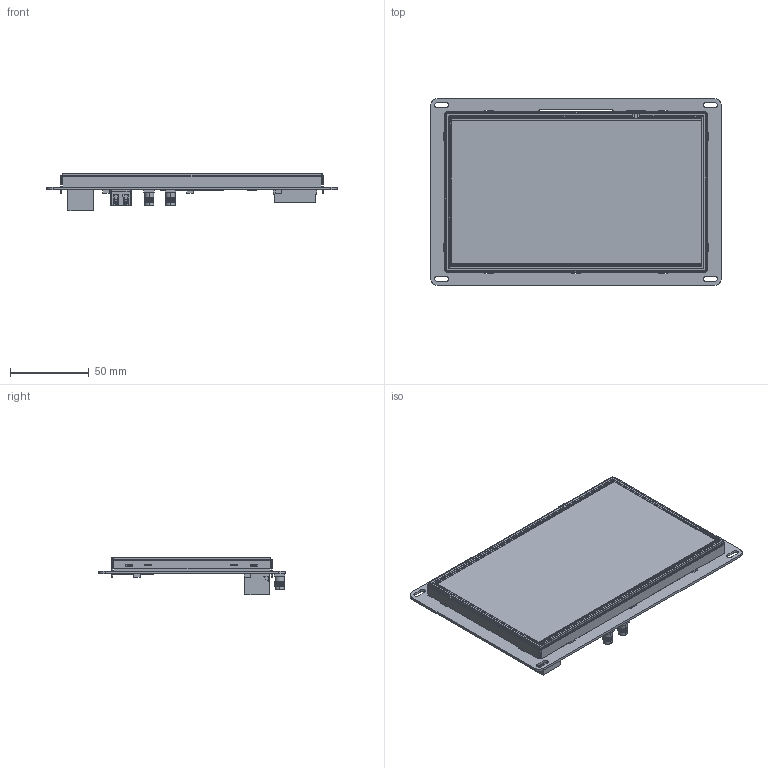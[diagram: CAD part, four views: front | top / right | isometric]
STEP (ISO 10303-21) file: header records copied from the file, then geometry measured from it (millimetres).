
FILE_DESCRIPTION (( 'STEP AP203' ), '1' );
FILE_NAME ('HMI_N7系列_通用3D（251223）.STEP', '2025-12-23T09:15:42', ( 'h''w''s''j''s' ), ( '' ), 'SwSTEP 2.0', 'SolidWorks 2020', '' );
FILE_SCHEMA (( 'CONFIG_CONTROL_DESIGN' ));
Length unit declared in the file: millimetre
Products named in the file (10): 7渡珘儒; D7萇郯; N7-PCB°å; 眻脣RJ45; HMI_N7系列_通用3D（251223）; 眻脣泂え毞盄釱; 蕾宒USB; N7-蚾饜芞; VH眻渀脣釱9P; N7-沺遺璃
Assembly tree (11 placements, depth 3):
  HMI_N7系列_通用3D（251223）
    VH眻渀脣釱9P
    蕾宒USB
    眻脣RJ45
    眻脣泂え毞盄釱  x2
    N7-蚾饜芞
      N7-沺遺璃
      7渡珘儒
      D7萇郯
      N7-PCB°å
    D7萇郯
Bounding box: 184 x 118 x 24 mm (x, y, z)
Volume: 175298.7 mm3; surface area: 169292.6 mm2
Topology: 12 solids, 14 shells, 1020 faces, 2703 edges, 1778 vertices
Faces by surface type: plane 807, cylinder 201, bspline 8, torus 4
Entity records: 29700 total; most frequent: CARTESIAN_POINT 5283, ORIENTED_EDGE 4922, DIRECTION 4564, EDGE_CURVE 2461, VECTOR 2142, LINE 2142, VERTEX_POINT 1604, AXIS2_PLACEMENT_3D 1211
